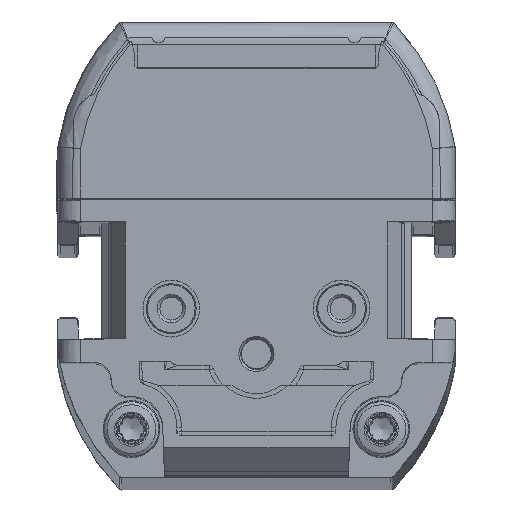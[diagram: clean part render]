
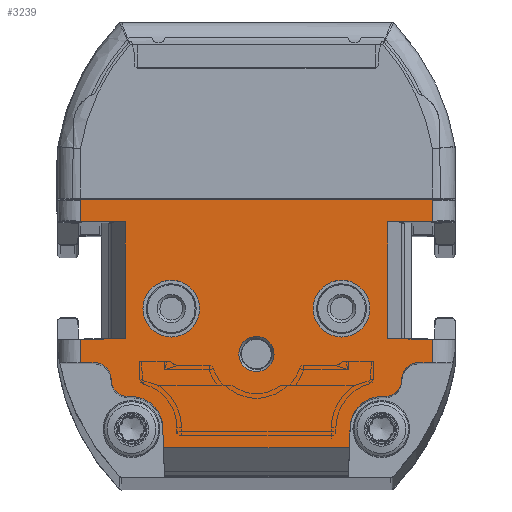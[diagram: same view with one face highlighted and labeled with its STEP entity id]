
A CAD part, top view. The second image highlights one B-rep face of the part: STEP entity #3239.
In plain terms, the highlighted planar face has unit normal (0, 0, 1).
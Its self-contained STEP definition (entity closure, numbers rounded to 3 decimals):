
#1178=FACE_BOUND('',#5343,.T.);
#1179=FACE_BOUND('',#5344,.T.);
#1180=FACE_BOUND('',#5345,.T.);
#1181=FACE_BOUND('',#5346,.T.);
#1900=CIRCLE('',#17502,2.5);
#1901=CIRCLE('',#17504,2.5);
#1902=CIRCLE('',#17506,1.55);
#1905=CIRCLE('',#17576,1.5);
#1906=CIRCLE('',#17577,1.5);
#1907=CIRCLE('',#17578,1.5);
#1908=CIRCLE('',#17579,1.5);
#1909=CIRCLE('',#17580,2.75);
#1910=CIRCLE('',#17581,2.75);
#3239=ADVANCED_FACE('',(#1178,#1179,#1180,#1181),#3754,.T.);
#3754=PLANE('',#17582);
#5343=EDGE_LOOP('',(#9281));
#5344=EDGE_LOOP('',(#9282));
#5345=EDGE_LOOP('',(#9283));
#5346=EDGE_LOOP('',(#9284,#9285,#9286,#9287,#9288,#9289,#9290,#9291,#9292,
#9293,#9294,#9295,#9296,#9297,#9298,#9299,#9300,#9301,#9302,#9303,#9304,
#9305,#9306,#9307,#9308,#9309));
#9281=ORIENTED_EDGE('',*,*,#13579,.T.);
#9282=ORIENTED_EDGE('',*,*,#13578,.F.);
#9283=ORIENTED_EDGE('',*,*,#13577,.F.);
#9284=ORIENTED_EDGE('',*,*,#13699,.F.);
#9285=ORIENTED_EDGE('',*,*,#13700,.T.);
#9286=ORIENTED_EDGE('',*,*,#13701,.T.);
#9287=ORIENTED_EDGE('',*,*,#13702,.T.);
#9288=ORIENTED_EDGE('',*,*,#13630,.T.);
#9289=ORIENTED_EDGE('',*,*,#13576,.T.);
#9290=ORIENTED_EDGE('',*,*,#13573,.T.);
#9291=ORIENTED_EDGE('',*,*,#13572,.T.);
#9292=ORIENTED_EDGE('',*,*,#13698,.T.);
#9293=ORIENTED_EDGE('',*,*,#13703,.F.);
#9294=ORIENTED_EDGE('',*,*,#13704,.F.);
#9295=ORIENTED_EDGE('',*,*,#13705,.F.);
#9296=ORIENTED_EDGE('',*,*,#13692,.T.);
#9297=ORIENTED_EDGE('',*,*,#13568,.F.);
#9298=ORIENTED_EDGE('',*,*,#13564,.T.);
#9299=ORIENTED_EDGE('',*,*,#13563,.F.);
#9300=ORIENTED_EDGE('',*,*,#13603,.T.);
#9301=ORIENTED_EDGE('',*,*,#13706,.F.);
#9302=ORIENTED_EDGE('',*,*,#13707,.T.);
#9303=ORIENTED_EDGE('',*,*,#13708,.T.);
#9304=ORIENTED_EDGE('',*,*,#13709,.F.);
#9305=ORIENTED_EDGE('',*,*,#13710,.F.);
#9306=ORIENTED_EDGE('',*,*,#13711,.F.);
#9307=ORIENTED_EDGE('',*,*,#13611,.T.);
#9308=ORIENTED_EDGE('',*,*,#13712,.F.);
#9309=ORIENTED_EDGE('',*,*,#13713,.F.);
#11499=VERTEX_POINT('',#29891);
#11500=VERTEX_POINT('',#29893);
#11501=VERTEX_POINT('',#29897);
#11502=VERTEX_POINT('',#29901);
#11504=VERTEX_POINT('',#29907);
#11506=VERTEX_POINT('',#29911);
#11507=VERTEX_POINT('',#29915);
#11508=VERTEX_POINT('',#29919);
#11509=VERTEX_POINT('',#29923);
#11510=VERTEX_POINT('',#29926);
#11511=VERTEX_POINT('',#29929);
#11528=VERTEX_POINT('',#30023);
#11533=VERTEX_POINT('',#30037);
#11534=VERTEX_POINT('',#30039);
#11547=VERTEX_POINT('',#30079);
#11581=VERTEX_POINT('',#30332);
#11585=VERTEX_POINT('',#30342);
#11586=VERTEX_POINT('',#30346);
#11587=VERTEX_POINT('',#30347);
#11588=VERTEX_POINT('',#30349);
#11589=VERTEX_POINT('',#30351);
#11590=VERTEX_POINT('',#30354);
#11591=VERTEX_POINT('',#30356);
#11592=VERTEX_POINT('',#30359);
#11593=VERTEX_POINT('',#30361);
#11594=VERTEX_POINT('',#30363);
#11595=VERTEX_POINT('',#30365);
#11596=VERTEX_POINT('',#30367);
#11597=VERTEX_POINT('',#30370);
#13563=EDGE_CURVE('',#11500,#11499,#15088,.T.);
#13564=EDGE_CURVE('',#11501,#11499,#15089,.T.);
#13568=EDGE_CURVE('',#11501,#11502,#15092,.T.);
#13572=EDGE_CURVE('',#11504,#11506,#15095,.T.);
#13573=EDGE_CURVE('',#11507,#11504,#15096,.T.);
#13576=EDGE_CURVE('',#11508,#11507,#15098,.T.);
#13577=EDGE_CURVE('',#11509,#11509,#1900,.T.);
#13578=EDGE_CURVE('',#11510,#11510,#1901,.T.);
#13579=EDGE_CURVE('',#11511,#11511,#1902,.T.);
#13603=EDGE_CURVE('',#11500,#11528,#15113,.T.);
#13611=EDGE_CURVE('',#11533,#11534,#15119,.T.);
#13630=EDGE_CURVE('',#11547,#11508,#15132,.T.);
#13692=EDGE_CURVE('',#11581,#11502,#15175,.T.);
#13698=EDGE_CURVE('',#11506,#11585,#15177,.T.);
#13699=EDGE_CURVE('',#11586,#11587,#15178,.T.);
#13700=EDGE_CURVE('',#11586,#11588,#1905,.T.);
#13701=EDGE_CURVE('',#11588,#11589,#1906,.T.);
#13702=EDGE_CURVE('',#11589,#11547,#15179,.T.);
#13703=EDGE_CURVE('',#11590,#11585,#15180,.T.);
#13704=EDGE_CURVE('',#11591,#11590,#15181,.T.);
#13705=EDGE_CURVE('',#11581,#11591,#15182,.T.);
#13706=EDGE_CURVE('',#11592,#11528,#15183,.T.);
#13707=EDGE_CURVE('',#11592,#11593,#1907,.T.);
#13708=EDGE_CURVE('',#11593,#11594,#1908,.T.);
#13709=EDGE_CURVE('',#11595,#11594,#15184,.T.);
#13710=EDGE_CURVE('',#11596,#11595,#1909,.T.);
#13711=EDGE_CURVE('',#11533,#11596,#15185,.T.);
#13712=EDGE_CURVE('',#11597,#11534,#15186,.T.);
#13713=EDGE_CURVE('',#11587,#11597,#1910,.T.);
#15088=LINE('',#29894,#16251);
#15089=LINE('',#29896,#16252);
#15092=LINE('',#29904,#16255);
#15095=LINE('',#29912,#16258);
#15096=LINE('',#29914,#16259);
#15098=LINE('',#29920,#16261);
#15113=LINE('',#30024,#16276);
#15119=LINE('',#30040,#16282);
#15132=LINE('',#30078,#16295);
#15175=LINE('',#30331,#16338);
#15177=LINE('',#30343,#16340);
#15178=LINE('',#30345,#16341);
#15179=LINE('',#30352,#16342);
#15180=LINE('',#30353,#16343);
#15181=LINE('',#30355,#16344);
#15182=LINE('',#30357,#16345);
#15183=LINE('',#30358,#16346);
#15184=LINE('',#30364,#16347);
#15185=LINE('',#30368,#16348);
#15186=LINE('',#30369,#16349);
#16251=VECTOR('',#20699,1.);
#16252=VECTOR('',#20702,1.);
#16255=VECTOR('',#20709,1.);
#16258=VECTOR('',#20716,1.);
#16259=VECTOR('',#20719,1.);
#16261=VECTOR('',#20725,1.);
#16276=VECTOR('',#20776,1.);
#16282=VECTOR('',#20790,1.);
#16295=VECTOR('',#20829,1.);
#16338=VECTOR('',#20940,1.);
#16340=VECTOR('',#20952,1.);
#16341=VECTOR('',#20955,1.);
#16342=VECTOR('',#20960,1.);
#16343=VECTOR('',#20961,1.);
#16344=VECTOR('',#20962,1.);
#16345=VECTOR('',#20963,1.);
#16346=VECTOR('',#20964,1.);
#16347=VECTOR('',#20969,1.);
#16348=VECTOR('',#20972,1.);
#16349=VECTOR('',#20973,1.);
#17502=AXIS2_PLACEMENT_3D('',#29922,#20728,#20729);
#17504=AXIS2_PLACEMENT_3D('',#29925,#20732,#20733);
#17506=AXIS2_PLACEMENT_3D('',#29928,#20736,#20737);
#17576=AXIS2_PLACEMENT_3D('',#30348,#20956,#20957);
#17577=AXIS2_PLACEMENT_3D('',#30350,#20958,#20959);
#17578=AXIS2_PLACEMENT_3D('',#30360,#20965,#20966);
#17579=AXIS2_PLACEMENT_3D('',#30362,#20967,#20968);
#17580=AXIS2_PLACEMENT_3D('',#30366,#20970,#20971);
#17581=AXIS2_PLACEMENT_3D('',#30371,#20974,#20975);
#17582=AXIS2_PLACEMENT_3D('',#30372,#20976,#20977);
#20699=DIRECTION('',(1.,0.017,0.));
#20702=DIRECTION('',(0.,-1.,0.));
#20709=DIRECTION('',(-1.,0.017,0.));
#20716=DIRECTION('',(1.,0.017,0.));
#20719=DIRECTION('',(0.,1.,0.));
#20725=DIRECTION('',(-1.,0.017,0.));
#20728=DIRECTION('',(0.,0.,1.));
#20729=DIRECTION('',(1.,0.,0.));
#20732=DIRECTION('',(0.,0.,1.));
#20733=DIRECTION('',(1.,0.,0.));
#20736=DIRECTION('',(0.,0.,-1.));
#20737=DIRECTION('',(1.,0.,0.));
#20776=DIRECTION('',(0.,-1.,0.));
#20790=DIRECTION('',(1.,0.,0.));
#20829=DIRECTION('',(0.,1.,0.));
#20940=DIRECTION('',(0.,-1.,0.));
#20952=DIRECTION('',(0.,1.,0.));
#20955=DIRECTION('',(-1.,0.,0.));
#20956=DIRECTION('',(0.,0.,1.));
#20957=DIRECTION('',(1.,0.,0.));
#20958=DIRECTION('',(0.,0.,-1.));
#20959=DIRECTION('',(1.,0.,0.));
#20960=DIRECTION('',(1.,0.,0.));
#20961=DIRECTION('',(1.,-0.017,0.));
#20962=DIRECTION('',(1.,0.,0.));
#20963=DIRECTION('',(1.,0.017,0.));
#20964=DIRECTION('',(-1.,0.,0.));
#20965=DIRECTION('',(0.,0.,-1.));
#20966=DIRECTION('',(1.,0.,0.));
#20967=DIRECTION('',(0.,0.,1.));
#20968=DIRECTION('',(1.,0.,0.));
#20969=DIRECTION('',(-1.,0.,0.));
#20970=DIRECTION('',(0.,0.,1.));
#20971=DIRECTION('',(1.,0.,0.));
#20972=DIRECTION('',(-0.035,0.999,0.));
#20973=DIRECTION('',(-0.035,-0.999,0.));
#20974=DIRECTION('',(0.,0.,1.));
#20975=DIRECTION('',(1.,0.,0.));
#20976=DIRECTION('',(0.,0.,1.));
#20977=DIRECTION('',(1.,0.,0.));
#29891=CARTESIAN_POINT('',(-11.55,12.107,699.));
#29893=CARTESIAN_POINT('',(-15.5,12.038,699.));
#29894=CARTESIAN_POINT('',(-17.709,11.999,699.));
#29896=CARTESIAN_POINT('',(-11.55,0.,699.));
#29897=CARTESIAN_POINT('',(-11.55,22.393,699.));
#29901=CARTESIAN_POINT('',(-15.5,22.462,699.));
#29904=CARTESIAN_POINT('',(-17.107,22.49,699.));
#29907=CARTESIAN_POINT('',(11.55,22.393,699.));
#29911=CARTESIAN_POINT('',(15.5,22.462,699.));
#29912=CARTESIAN_POINT('',(-17.882,21.88,699.));
#29914=CARTESIAN_POINT('',(11.55,0.,699.));
#29915=CARTESIAN_POINT('',(11.55,12.107,699.));
#29919=CARTESIAN_POINT('',(15.5,12.038,699.));
#29920=CARTESIAN_POINT('',(-17.28,12.61,699.));
#29922=CARTESIAN_POINT('',(-7.5,14.75,699.));
#29923=CARTESIAN_POINT('',(-5.,14.75,699.));
#29925=CARTESIAN_POINT('',(7.5,14.75,699.));
#29926=CARTESIAN_POINT('',(10.,14.75,699.));
#29928=CARTESIAN_POINT('',(0.,10.75,699.));
#29929=CARTESIAN_POINT('',(1.55,10.75,699.));
#30023=CARTESIAN_POINT('',(-15.5,10.,699.));
#30024=CARTESIAN_POINT('',(-15.5,0.,699.));
#30037=CARTESIAN_POINT('',(-8.189,2.5,699.));
#30039=CARTESIAN_POINT('',(8.189,2.5,699.));
#30040=CARTESIAN_POINT('',(-17.5,2.5,699.));
#30078=CARTESIAN_POINT('',(15.5,0.,699.));
#30079=CARTESIAN_POINT('',(15.5,10.,699.));
#30331=CARTESIAN_POINT('',(-15.5,0.,699.));
#30332=CARTESIAN_POINT('',(-15.5,24.317,699.));
#30342=CARTESIAN_POINT('',(15.5,24.317,699.));
#30343=CARTESIAN_POINT('',(15.5,0.,699.));
#30345=CARTESIAN_POINT('',(23.25,7.,699.));
#30346=CARTESIAN_POINT('',(11.3,7.,699.));
#30347=CARTESIAN_POINT('',(11.002,7.,699.));
#30348=CARTESIAN_POINT('',(11.3,8.5,699.));
#30349=CARTESIAN_POINT('',(12.8,8.5,699.));
#30350=CARTESIAN_POINT('',(14.3,8.5,699.));
#30351=CARTESIAN_POINT('',(14.3,10.,699.));
#30352=CARTESIAN_POINT('',(-17.5,10.,699.));
#30353=CARTESIAN_POINT('',(-17.066,24.886,699.));
#30354=CARTESIAN_POINT('',(13.025,24.36,699.));
#30355=CARTESIAN_POINT('',(-17.5,24.36,699.));
#30356=CARTESIAN_POINT('',(-13.025,24.36,699.));
#30357=CARTESIAN_POINT('',(-17.924,24.275,699.));
#30358=CARTESIAN_POINT('',(-17.5,10.,699.));
#30359=CARTESIAN_POINT('',(-14.3,10.,699.));
#30360=CARTESIAN_POINT('',(-14.3,8.5,699.));
#30361=CARTESIAN_POINT('',(-12.8,8.5,699.));
#30362=CARTESIAN_POINT('',(-11.3,8.5,699.));
#30363=CARTESIAN_POINT('',(-11.3,7.,699.));
#30364=CARTESIAN_POINT('',(-11.,7.,699.));
#30365=CARTESIAN_POINT('',(-11.002,7.,699.));
#30366=CARTESIAN_POINT('',(-11.002,4.25,699.));
#30367=CARTESIAN_POINT('',(-8.253,4.346,699.));
#30368=CARTESIAN_POINT('',(-8.25,4.25,699.));
#30369=CARTESIAN_POINT('',(8.25,4.25,699.));
#30370=CARTESIAN_POINT('',(8.253,4.346,699.));
#30371=CARTESIAN_POINT('',(11.002,4.25,699.));
#30372=CARTESIAN_POINT('',(-17.5,0.,699.));
